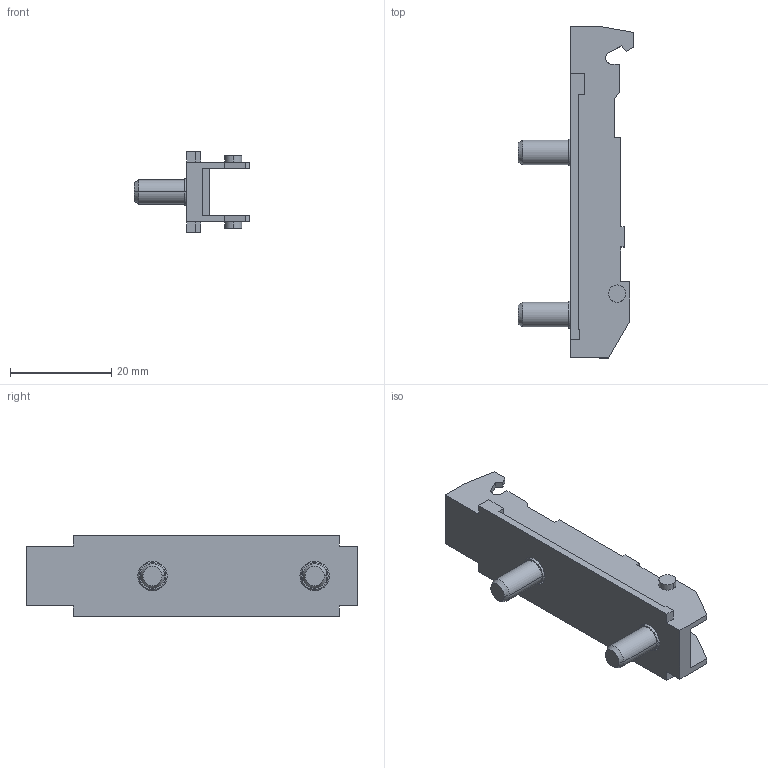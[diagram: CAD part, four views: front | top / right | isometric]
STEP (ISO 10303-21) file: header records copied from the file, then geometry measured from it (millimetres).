
FILE_DESCRIPTION (( 'STEP AP214' ), '1' );
FILE_NAME ('1D_Linearmontageplatte 20_32_Euroschraube vormontiert_H02.step', '2010-11-18T10:17:24', ( 'grass' ), ( '' ), 'SwSTEP 2.0', 'SolidWorks 2010', '' );
FILE_SCHEMA (( 'AUTOMOTIVE_DESIGN' ));
Length unit declared in the file: millimetre
Products named in the file (1): 1D_Linearmontageplatte 20_32_Euroschraube vormontiert_H02
Bounding box: 22.85 x 65.5 x 16 mm (x, y, z)
Volume: 4401.9 mm3; surface area: 4807 mm2
Topology: 1 solids, 1 shells, 102 faces, 264 edges, 172 vertices
Faces by surface type: plane 72, cylinder 22, cone 8
Entity records: 3114 total; most frequent: CARTESIAN_POINT 539, ORIENTED_EDGE 528, DIRECTION 518, EDGE_CURVE 264, LINE 216, VECTOR 216, VERTEX_POINT 172, AXIS2_PLACEMENT_3D 151
